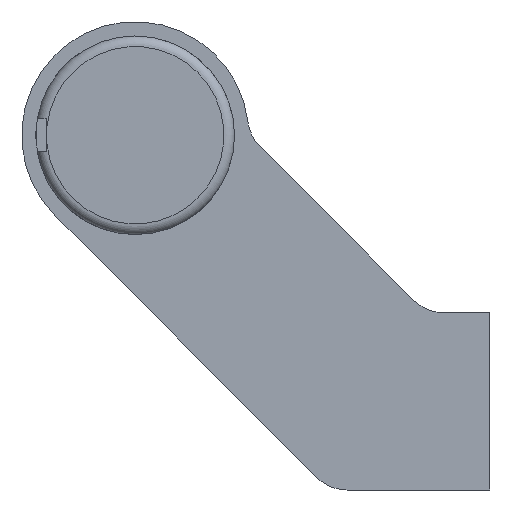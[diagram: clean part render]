
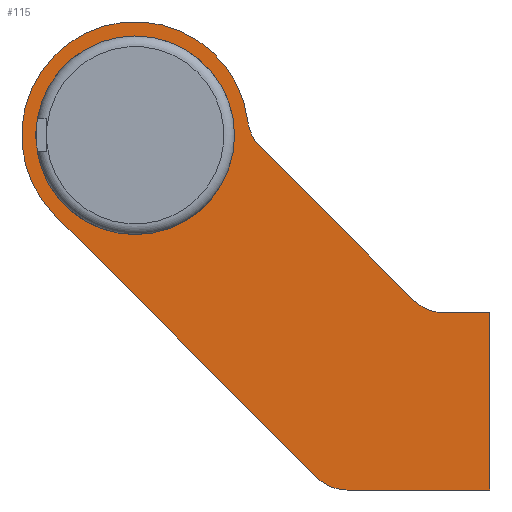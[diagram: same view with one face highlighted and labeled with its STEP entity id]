
A CAD part, left-side view. The second image highlights one B-rep face of the part: STEP entity #115.
In plain terms, the highlighted planar face has unit normal (-1, 0, 0).
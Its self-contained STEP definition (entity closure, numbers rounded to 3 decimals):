
#115 = ADVANCED_FACE( '', ( #215, #216 ), #217, .F. );
#215 = FACE_BOUND( '', #328, .T. );
#216 = FACE_OUTER_BOUND( '', #329, .T. );
#217 = PLANE( '', #330 );
#328 = EDGE_LOOP( '', ( #629 ) );
#329 = EDGE_LOOP( '', ( #630, #631, #632, #633, #634, #635, #636, #637, #638 ) );
#330 = AXIS2_PLACEMENT_3D( '', #639, #640, #641 );
#629 = ORIENTED_EDGE( '', *, *, #755, .T. );
#630 = ORIENTED_EDGE( '', *, *, #741, .F. );
#631 = ORIENTED_EDGE( '', *, *, #719, .F. );
#632 = ORIENTED_EDGE( '', *, *, #715, .F. );
#633 = ORIENTED_EDGE( '', *, *, #723, .F. );
#634 = ORIENTED_EDGE( '', *, *, #726, .F. );
#635 = ORIENTED_EDGE( '', *, *, #729, .T. );
#636 = ORIENTED_EDGE( '', *, *, #732, .F. );
#637 = ORIENTED_EDGE( '', *, *, #735, .T. );
#638 = ORIENTED_EDGE( '', *, *, #738, .F. );
#639 = CARTESIAN_POINT( '', ( -157., 50., 37.5 ) );
#640 = DIRECTION( '', ( 1., 0., 0. ) );
#641 = DIRECTION( '', ( 0., 0., -1. ) );
#715 = EDGE_CURVE( '', #840, #841, #842, .T. );
#719 = EDGE_CURVE( '', #841, #848, #849, .T. );
#723 = EDGE_CURVE( '', #855, #840, #856, .T. );
#726 = EDGE_CURVE( '', #860, #855, #861, .T. );
#729 = EDGE_CURVE( '', #860, #865, #866, .T. );
#732 = EDGE_CURVE( '', #870, #865, #871, .T. );
#735 = EDGE_CURVE( '', #870, #875, #876, .T. );
#738 = EDGE_CURVE( '', #880, #875, #881, .T. );
#741 = EDGE_CURVE( '', #848, #880, #885, .T. );
#755 = EDGE_CURVE( '', #907, #907, #908, .T. );
#840 = VERTEX_POINT( '', #1083 );
#841 = VERTEX_POINT( '', #1084 );
#842 = LINE( '', #1085, #1086 );
#848 = VERTEX_POINT( '', #1095 );
#849 = CIRCLE( '', #1096, 6. );
#855 = VERTEX_POINT( '', #1103 );
#856 = LINE( '', #1104, #1105 );
#860 = VERTEX_POINT( '', #1111 );
#861 = LINE( '', #1112, #1113 );
#865 = VERTEX_POINT( '', #1119 );
#866 = CIRCLE( '', #1120, 6. );
#870 = VERTEX_POINT( '', #1125 );
#871 = LINE( '', #1126, #1127 );
#875 = VERTEX_POINT( '', #1133 );
#876 = CIRCLE( '', #1134, 6. );
#880 = VERTEX_POINT( '', #1139 );
#881 = CIRCLE( '', #1140, 16. );
#885 = LINE( '', #1145, #1146 );
#907 = VERTEX_POINT( '', #1174 );
#908 = CIRCLE( '', #1175, 14. );
#1083 = CARTESIAN_POINT( '', ( -157., 0., -12.5 ) );
#1084 = CARTESIAN_POINT( '', ( -157., 20.142, -12.5 ) );
#1085 = CARTESIAN_POINT( '', ( -157., 0., -12.5 ) );
#1086 = VECTOR( '', #1265, 1000. );
#1095 = CARTESIAN_POINT( '', ( -157., 24.385, -10.743 ) );
#1096 = AXIS2_PLACEMENT_3D( '', #1269, #1270, #1271 );
#1103 = CARTESIAN_POINT( '', ( -157., 0., 12.5 ) );
#1104 = CARTESIAN_POINT( '', ( -157., 0., 12.5 ) );
#1105 = VECTOR( '', #1279, 1000. );
#1111 = CARTESIAN_POINT( '', ( -157., 6.515, 12.5 ) );
#1112 = CARTESIAN_POINT( '', ( -157., 6.515, 12.5 ) );
#1113 = VECTOR( '', #1282, 1000. );
#1119 = CARTESIAN_POINT( '', ( -157., 10.757, 14.257 ) );
#1120 = AXIS2_PLACEMENT_3D( '', #1285, #1286, #1287 );
#1125 = CARTESIAN_POINT( '', ( -157., 32.402, 35.902 ) );
#1126 = CARTESIAN_POINT( '', ( -157., 32.402, 35.902 ) );
#1127 = VECTOR( '', #1292, 1000. );
#1133 = CARTESIAN_POINT( '', ( -157., 34.116, 39.424 ) );
#1134 = AXIS2_PLACEMENT_3D( '', #1295, #1296, #1297 );
#1139 = CARTESIAN_POINT( '', ( -157., 61.314, 26.186 ) );
#1140 = AXIS2_PLACEMENT_3D( '', #1302, #1303, #1304 );
#1145 = CARTESIAN_POINT( '', ( -157., 24.385, -10.743 ) );
#1146 = VECTOR( '', #1309, 1000. );
#1174 = CARTESIAN_POINT( '', ( -157., 50., 23.5 ) );
#1175 = AXIS2_PLACEMENT_3D( '', #1337, #1338, #1339 );
#1265 = DIRECTION( '', ( 0., 1., 0. ) );
#1269 = CARTESIAN_POINT( '', ( -157., 20.142, -6.5 ) );
#1270 = DIRECTION( '', ( 1., 0., 0. ) );
#1271 = DIRECTION( '', ( 0., 0., -1. ) );
#1279 = DIRECTION( '', ( 0., 0., -1. ) );
#1282 = DIRECTION( '', ( 0., -1., 0. ) );
#1285 = CARTESIAN_POINT( '', ( -157., 6.515, 18.5 ) );
#1286 = DIRECTION( '', ( 1., 0., 0. ) );
#1287 = DIRECTION( '', ( 0., 0., -1. ) );
#1292 = DIRECTION( '', ( 0., -0.707, -0.707 ) );
#1295 = CARTESIAN_POINT( '', ( -157., 28.16, 40.145 ) );
#1296 = DIRECTION( '', ( 1., 0., 0. ) );
#1297 = DIRECTION( '', ( 0., 0., -1. ) );
#1302 = CARTESIAN_POINT( '', ( -157., 50., 37.5 ) );
#1303 = DIRECTION( '', ( 1., 0., 0. ) );
#1304 = DIRECTION( '', ( 0., 0., -1. ) );
#1309 = DIRECTION( '', ( 0., 0.707, 0.707 ) );
#1337 = CARTESIAN_POINT( '', ( -157., 50., 37.5 ) );
#1338 = DIRECTION( '', ( 1., 0., 0. ) );
#1339 = DIRECTION( '', ( 0., 0., -1. ) );
